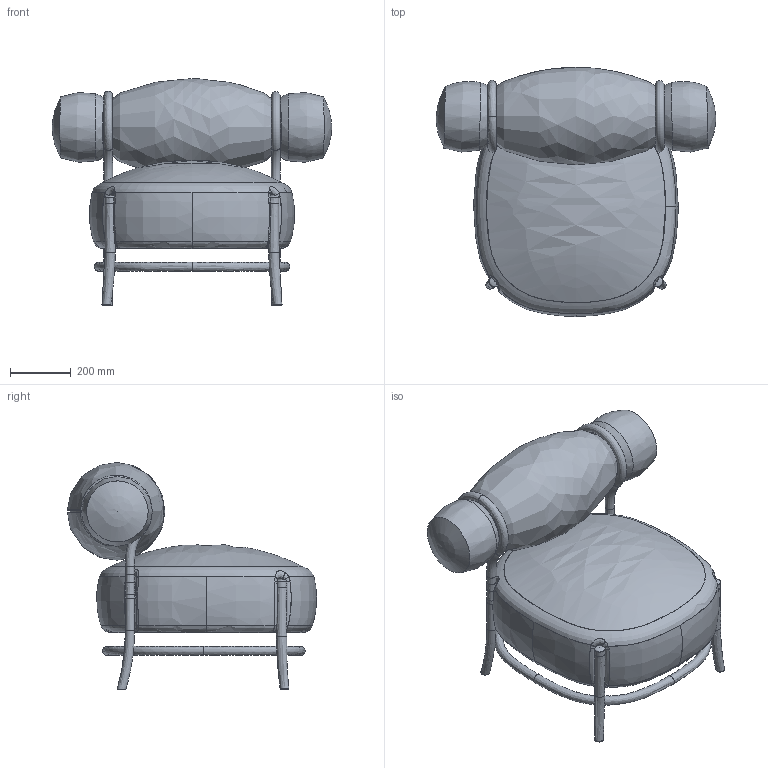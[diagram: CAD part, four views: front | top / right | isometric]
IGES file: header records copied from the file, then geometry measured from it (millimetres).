
Start section:  Autodesk DirectConnect version 8.0.56.1 ---- IGES version 5.3
Global section: file name: \\192.168.4.99\ufficio_tecnico\02 - PRODOTTI IN PRODUZIONE\CHIGNON\03 - DISEGNI 3D\MODELLI 3D x SITO AGGIORNATI\CHIGNON.igs; native system: Rhinoceros ( May 22 2017 ); preprocessor: Trout Lake IGES 012 May 22 2017; date: 190520.095303; units: millimetre
Bounding box: 917.11 x 818.34 x 744.34 mm (x, y, z)
Surface area: 3411932.3 mm2 (no closed solid volume)
Topology: 0 solids, 0 shells, 424 faces, 4359 edges, 4282 vertices
Faces by surface type: bspline 424
